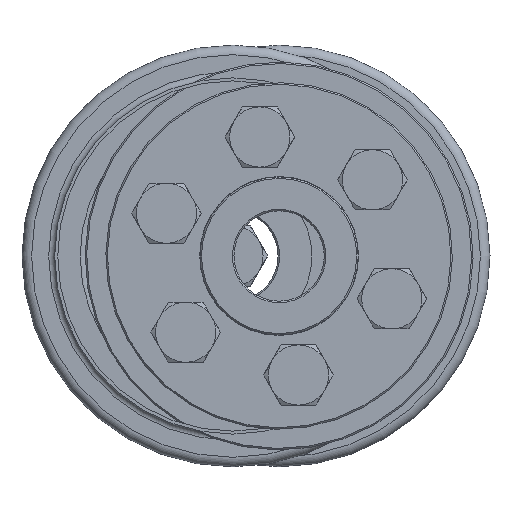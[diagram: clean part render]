
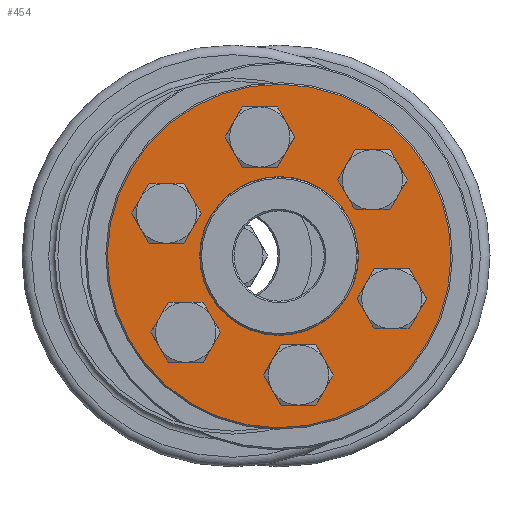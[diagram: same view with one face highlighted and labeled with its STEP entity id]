
A CAD part, left-side view. The second image highlights one B-rep face of the part: STEP entity #454.
In plain terms, the highlighted planar face has unit normal (-1, 0, 0).
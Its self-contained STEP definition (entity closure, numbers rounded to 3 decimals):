
#454 = ADVANCED_FACE( 'NONE', ( #700, #701, #702, #703, #704, #705, #706, #707 ), #708, .F. );
#700 = FACE_OUTER_BOUND( '', #989, .T. );
#701 = FACE_BOUND( '', #990, .T. );
#702 = FACE_BOUND( '', #991, .T. );
#703 = FACE_BOUND( '', #992, .T. );
#704 = FACE_BOUND( '', #993, .T. );
#705 = FACE_BOUND( '', #994, .T. );
#706 = FACE_BOUND( '', #995, .T. );
#707 = FACE_BOUND( '', #996, .T. );
#708 = PLANE( '', #997 );
#989 = EDGE_LOOP( '', ( #1398 ) );
#990 = EDGE_LOOP( '', ( #1399 ) );
#991 = EDGE_LOOP( '', ( #1400 ) );
#992 = EDGE_LOOP( '', ( #1401 ) );
#993 = EDGE_LOOP( '', ( #1402 ) );
#994 = EDGE_LOOP( '', ( #1403 ) );
#995 = EDGE_LOOP( '', ( #1404 ) );
#996 = EDGE_LOOP( '', ( #1405 ) );
#997 = AXIS2_PLACEMENT_3D( '', #1406, #1407, #1408 );
#1398 = ORIENTED_EDGE( '', *, *, #1807, .T. );
#1399 = ORIENTED_EDGE( '', *, *, #1808, .T. );
#1400 = ORIENTED_EDGE( '', *, *, #1794, .T. );
#1401 = ORIENTED_EDGE( '', *, *, #1809, .T. );
#1402 = ORIENTED_EDGE( '', *, *, #1810, .T. );
#1403 = ORIENTED_EDGE( '', *, *, #1806, .T. );
#1404 = ORIENTED_EDGE( '', *, *, #1805, .T. );
#1405 = ORIENTED_EDGE( '', *, *, #1804, .F. );
#1406 = CARTESIAN_POINT( '', ( 0., 10.5, 0. ) );
#1407 = DIRECTION( '', ( 1., 0., 0. ) );
#1408 = DIRECTION( '', ( 0., 1., 0. ) );
#1794 = EDGE_CURVE( 'NONE', #1993, #1993, #1994, .T. );
#1804 = EDGE_CURVE( 'NONE', #2013, #2013, #2014, .T. );
#1805 = EDGE_CURVE( 'NONE', #2015, #2015, #2016, .T. );
#1806 = EDGE_CURVE( 'NONE', #2017, #2017, #2018, .T. );
#1807 = EDGE_CURVE( 'NONE', #2019, #2019, #2020, .T. );
#1808 = EDGE_CURVE( 'NONE', #2021, #2021, #2022, .T. );
#1809 = EDGE_CURVE( 'NONE', #2023, #2023, #2024, .T. );
#1810 = EDGE_CURVE( 'NONE', #2025, #2025, #2026, .T. );
#1993 = VERTEX_POINT( '', #2239 );
#1994 = CIRCLE( '', #2240, 2.75 );
#2013 = VERTEX_POINT( '', #2259 );
#2014 = CIRCLE( '', #2260, 10.5 );
#2015 = VERTEX_POINT( '', #2261 );
#2016 = CIRCLE( '', #2262, 2.75 );
#2017 = VERTEX_POINT( '', #2263 );
#2018 = CIRCLE( '', #2264, 2.75 );
#2019 = VERTEX_POINT( '', #2265 );
#2020 = CIRCLE( '', #2266, 22.8 );
#2021 = VERTEX_POINT( '', #2267 );
#2022 = CIRCLE( '', #2268, 2.75 );
#2023 = VERTEX_POINT( '', #2269 );
#2024 = CIRCLE( '', #2270, 2.75 );
#2025 = VERTEX_POINT( '', #2271 );
#2026 = CIRCLE( '', #2272, 2.75 );
#2239 = CARTESIAN_POINT( '', ( 0., -8., 11.106 ) );
#2240 = AXIS2_PLACEMENT_3D( '', #2423, #2424, #2425 );
#2259 = CARTESIAN_POINT( '', ( 0., 0., 10.5 ) );
#2260 = AXIS2_PLACEMENT_3D( '', #2453, #2454, #2455 );
#2261 = CARTESIAN_POINT( '', ( 0., 16., -2.75 ) );
#2262 = AXIS2_PLACEMENT_3D( '', #2456, #2457, #2458 );
#2263 = CARTESIAN_POINT( '', ( 0., 8., -16.606 ) );
#2264 = AXIS2_PLACEMENT_3D( '', #2459, #2460, #2461 );
#2265 = CARTESIAN_POINT( '', ( 0., 0., -22.8 ) );
#2266 = AXIS2_PLACEMENT_3D( '', #2462, #2463, #2464 );
#2267 = CARTESIAN_POINT( '', ( 0., 8., 11.106 ) );
#2268 = AXIS2_PLACEMENT_3D( '', #2465, #2466, #2467 );
#2269 = CARTESIAN_POINT( '', ( 0., -16., -2.75 ) );
#2270 = AXIS2_PLACEMENT_3D( '', #2468, #2469, #2470 );
#2271 = CARTESIAN_POINT( '', ( 0., -8., -16.606 ) );
#2272 = AXIS2_PLACEMENT_3D( '', #2471, #2472, #2473 );
#2423 = CARTESIAN_POINT( '', ( 0., -8., 13.856 ) );
#2424 = DIRECTION( '', ( 1., 0., 0. ) );
#2425 = DIRECTION( '', ( 0., 0., -1. ) );
#2453 = CARTESIAN_POINT( '', ( 0., 0., 0. ) );
#2454 = DIRECTION( '', ( -1., 0., 0. ) );
#2455 = DIRECTION( '', ( 0., 0., 1. ) );
#2456 = CARTESIAN_POINT( '', ( 0., 16., 0. ) );
#2457 = DIRECTION( '', ( 1., 0., 0. ) );
#2458 = DIRECTION( '', ( 0., 0., -1. ) );
#2459 = CARTESIAN_POINT( '', ( 0., 8., -13.856 ) );
#2460 = DIRECTION( '', ( 1., 0., 0. ) );
#2461 = DIRECTION( '', ( 0., 0., -1. ) );
#2462 = CARTESIAN_POINT( '', ( 0., 0., 0. ) );
#2463 = DIRECTION( '', ( -1., 0., 0. ) );
#2464 = DIRECTION( '', ( 0., 0., -1. ) );
#2465 = CARTESIAN_POINT( '', ( 0., 8., 13.856 ) );
#2466 = DIRECTION( '', ( 1., 0., 0. ) );
#2467 = DIRECTION( '', ( 0., 0., -1. ) );
#2468 = CARTESIAN_POINT( '', ( 0., -16., 0. ) );
#2469 = DIRECTION( '', ( 1., 0., 0. ) );
#2470 = DIRECTION( '', ( 0., 0., -1. ) );
#2471 = CARTESIAN_POINT( '', ( 0., -8., -13.856 ) );
#2472 = DIRECTION( '', ( 1., 0., 0. ) );
#2473 = DIRECTION( '', ( 0., 0., -1. ) );
